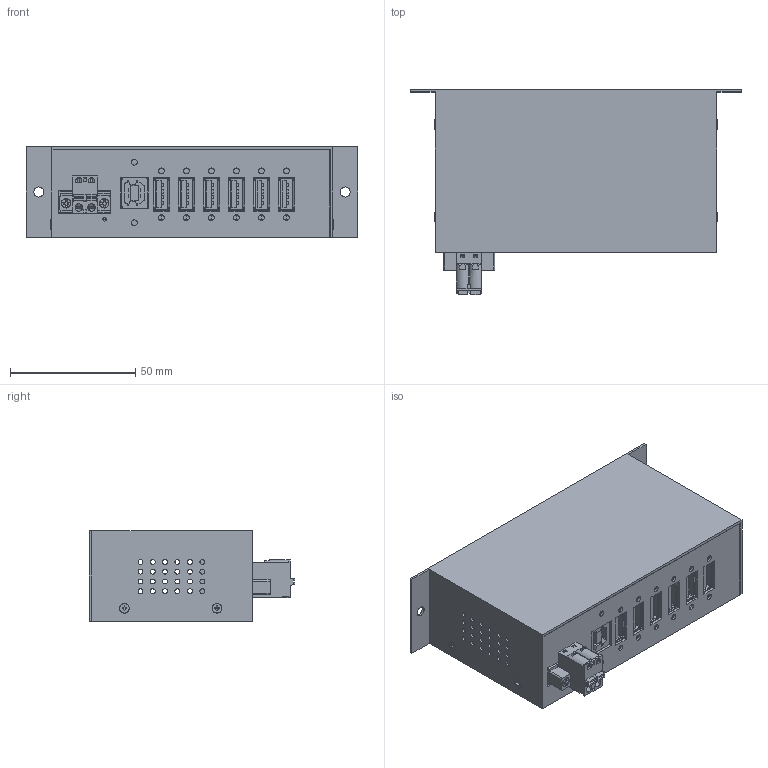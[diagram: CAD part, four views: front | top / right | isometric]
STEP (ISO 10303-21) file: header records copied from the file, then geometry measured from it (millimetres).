
FILE_DESCRIPTION(('FreeCAD Model'),'2;1');
FILE_NAME('X:/Technische Zeichnungen/EX-1596HMVS/EX-1596HMVS_3D.step', '2020-01-28T11:05:47',('Author'),(''), 'Open CASCADE STEP processor 6.8','FreeCAD','Unknown');
FILE_SCHEMA(('AUTOMOTIVE_DESIGN_CC2 { 1 2 10303 214 -1 1 5 4 }'));
Products named in the file (1): EX-1596HMVS_3D
Bounding box: 132.5 x 82 x 36.2 mm (x, y, z)
Surface area: 88874.8 mm2
Topology: 10 solids, 11 shells, 2765 faces, 8008 edges, 5307 vertices
Faces by surface type: plane 1978, cylinder 707, cone 40, torus 32, bspline 8
Full cylindrical faces by diameter (mm): 1.4 x1, 1.95 x48, 2 x2, 2.3 x14, 2.4 x8, 2.5 x4, 2.8 x8, 3 x2, 3.2 x4, 3.8 x4, 4 x2, 5.3 x4
Entity records: 295398 total; most frequent: CARTESIAN_POINT 125917, DIRECTION 25058, ORIENTED_EDGE 16004, PCURVE 16004, DEFINITIONAL_REPRESENTATION 16004, LINE 15348, VECTOR 15348, EDGE_CURVE 8008
